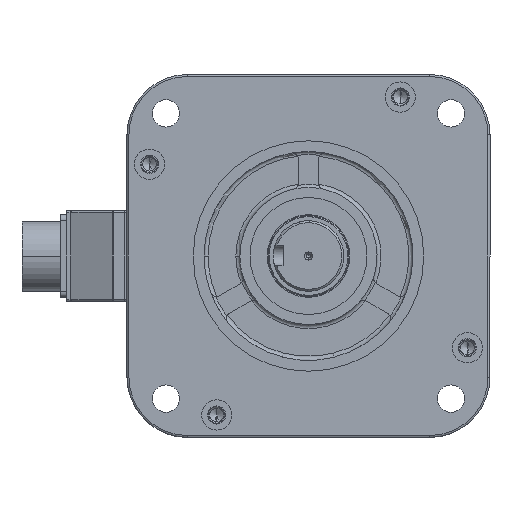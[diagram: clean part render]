
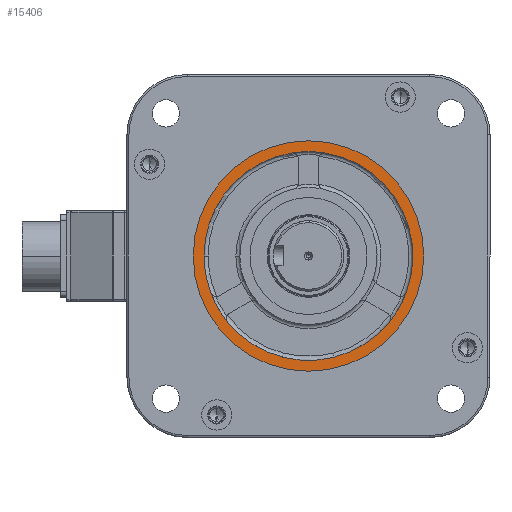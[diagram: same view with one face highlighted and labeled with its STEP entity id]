
A CAD part, left-side view. The second image highlights one B-rep face of the part: STEP entity #15406.
In plain terms, the highlighted planar face has unit normal (-1, 0, 0) as drawn and (0, 0, 1) by its records, which use the part's own axes.
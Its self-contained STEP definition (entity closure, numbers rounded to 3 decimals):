
#136 = CIRCLE ( 'NONE', #27488, 51.75 ) ;
#137 = DIRECTION ( 'NONE',  ( 0., 0., 1. ) ) ;
#355 = CARTESIAN_POINT ( 'NONE',  ( 0., 0., 21. ) ) ;
#2771 = VERTEX_POINT ( 'NONE', #42454 ) ;
#2806 = EDGE_CURVE ( 'NONE', #6686, #5763, #35256, .T. ) ;
#2818 = CARTESIAN_POINT ( 'NONE',  ( 0., 0., 21. ) ) ;
#3034 = CARTESIAN_POINT ( 'NONE',  ( 0., 0., 21. ) ) ;
#3166 = ORIENTED_EDGE ( 'NONE', *, *, #10701, .F. ) ;
#3400 = ORIENTED_EDGE ( 'NONE', *, *, #39019, .F. ) ;
#3638 = CARTESIAN_POINT ( 'NONE',  ( 0., 0., 21. ) ) ;
#3722 = DIRECTION ( 'NONE',  ( 0., 0., 1. ) ) ;
#5050 = DIRECTION ( 'NONE',  ( 1., 0., 0. ) ) ;
#5763 = VERTEX_POINT ( 'NONE', #38786 ) ;
#5901 = VERTEX_POINT ( 'NONE', #59194 ) ;
#6155 = FACE_OUTER_BOUND ( 'NONE', #52010, .T. ) ;
#6686 = VERTEX_POINT ( 'NONE', #58683 ) ;
#9834 = CIRCLE ( 'NONE', #43986, 51.75 ) ;
#10457 = ORIENTED_EDGE ( 'NONE', *, *, #2806, .F. ) ;
#10701 = EDGE_CURVE ( 'NONE', #18728, #2771, #42545, .T. ) ;
#11913 = DIRECTION ( 'NONE',  ( 1., 0., 0. ) ) ;
#12607 = DIRECTION ( 'NONE',  ( 1., 0., 0. ) ) ;
#12855 = AXIS2_PLACEMENT_3D ( 'NONE', #3638, #14359, #22622 ) ;
#14359 = DIRECTION ( 'NONE',  ( 0., 0., 1. ) ) ;
#14843 = VERTEX_POINT ( 'NONE', #28582 ) ;
#15406 = ADVANCED_FACE ( 'NONE', ( #29990, #6155 ), #53205, .T. ) ;
#16970 = EDGE_CURVE ( 'NONE', #47083, #52366, #57731, .T. ) ;
#17823 = CARTESIAN_POINT ( 'NONE',  ( -8.492, -51.048, 21. ) ) ;
#18394 = DIRECTION ( 'NONE',  ( 0., 0., 1. ) ) ;
#18728 = VERTEX_POINT ( 'NONE', #53962 ) ;
#19975 = DIRECTION ( 'NONE',  ( 0., 0., 1. ) ) ;
#20243 = DIRECTION ( 'NONE',  ( 0., 0., 1. ) ) ;
#21138 = CARTESIAN_POINT ( 'NONE',  ( 0., 0., 21. ) ) ;
#21549 = CIRCLE ( 'NONE', #32280, 57.15 ) ;
#21719 = DIRECTION ( 'NONE',  ( 0., 0., 1. ) ) ;
#22149 = DIRECTION ( 'NONE',  ( 1., 0., 0. ) ) ;
#22622 = DIRECTION ( 'NONE',  ( 1., 0., 0. ) ) ;
#24144 = CIRCLE ( 'NONE', #41632, 51.75 ) ;
#27048 = EDGE_CURVE ( 'NONE', #2771, #5901, #40883, .T. ) ;
#27488 = AXIS2_PLACEMENT_3D ( 'NONE', #355, #59411, #35636 ) ;
#27693 = CARTESIAN_POINT ( 'NONE',  ( 0., 0., 21. ) ) ;
#28582 = CARTESIAN_POINT ( 'NONE',  ( 8.492, -51.048, 21. ) ) ;
#29990 = FACE_BOUND ( 'NONE', #38367, .T. ) ;
#30899 = ORIENTED_EDGE ( 'NONE', *, *, #54880, .F. ) ;
#32280 = AXIS2_PLACEMENT_3D ( 'NONE', #59661, #55418, #22149 ) ;
#33724 = CARTESIAN_POINT ( 'NONE',  ( 0., 0., 21. ) ) ;
#35256 = CIRCLE ( 'NONE', #38177, 51.75 ) ;
#35398 = ORIENTED_EDGE ( 'NONE', *, *, #16970, .T. ) ;
#35636 = DIRECTION ( 'NONE',  ( 1., 0., 0. ) ) ;
#37035 = DIRECTION ( 'NONE',  ( 1., 0., 0. ) ) ;
#37262 = CARTESIAN_POINT ( 'NONE',  ( 0., 0., 21. ) ) ;
#37337 = ORIENTED_EDGE ( 'NONE', *, *, #49691, .F. ) ;
#37961 = CARTESIAN_POINT ( 'NONE',  ( -57.15, 0., 21. ) ) ;
#38005 = EDGE_CURVE ( 'NONE', #52366, #47083, #21549, .T. ) ;
#38177 = AXIS2_PLACEMENT_3D ( 'NONE', #37262, #46735, #55896 ) ;
#38367 = EDGE_LOOP ( 'NONE', ( #37337, #10457, #3400, #50100, #30899, #58629, #3166 ) ) ;
#38786 = CARTESIAN_POINT ( 'NONE',  ( 48.455, 18.17, 21. ) ) ;
#39019 = EDGE_CURVE ( 'NONE', #14843, #6686, #136, .T. ) ;
#40883 = CIRCLE ( 'NONE', #56507, 51.75 ) ;
#41632 = AXIS2_PLACEMENT_3D ( 'NONE', #60230, #18394, #37035 ) ;
#42454 = CARTESIAN_POINT ( 'NONE',  ( -39.963, 32.879, 21. ) ) ;
#42545 = CIRCLE ( 'NONE', #51377, 51.75 ) ;
#43986 = AXIS2_PLACEMENT_3D ( 'NONE', #27693, #137, #5050 ) ;
#44141 = AXIS2_PLACEMENT_3D ( 'NONE', #3034, #21719, #11913 ) ;
#44250 = ORIENTED_EDGE ( 'NONE', *, *, #38005, .T. ) ;
#45559 = EDGE_CURVE ( 'NONE', #56284, #14843, #55863, .T. ) ;
#45887 = AXIS2_PLACEMENT_3D ( 'NONE', #21138, #20243, #57479 ) ;
#46735 = DIRECTION ( 'NONE',  ( 0., 0., 1. ) ) ;
#47083 = VERTEX_POINT ( 'NONE', #47767 ) ;
#47767 = CARTESIAN_POINT ( 'NONE',  ( 57.15, 0., 21. ) ) ;
#49691 = EDGE_CURVE ( 'NONE', #5763, #18728, #24144, .T. ) ;
#50100 = ORIENTED_EDGE ( 'NONE', *, *, #45559, .F. ) ;
#51377 = AXIS2_PLACEMENT_3D ( 'NONE', #33724, #19975, #57229 ) ;
#52010 = EDGE_LOOP ( 'NONE', ( #44250, #35398 ) ) ;
#52366 = VERTEX_POINT ( 'NONE', #37961 ) ;
#53205 = PLANE ( 'NONE',  #45887 ) ;
#53962 = CARTESIAN_POINT ( 'NONE',  ( 39.963, 32.879, 21. ) ) ;
#54880 = EDGE_CURVE ( 'NONE', #5901, #56284, #9834, .T. ) ;
#55418 = DIRECTION ( 'NONE',  ( 0., 0., 1. ) ) ;
#55863 = CIRCLE ( 'NONE', #44141, 51.75 ) ;
#55896 = DIRECTION ( 'NONE',  ( 1., 0., 0. ) ) ;
#56284 = VERTEX_POINT ( 'NONE', #17823 ) ;
#56507 = AXIS2_PLACEMENT_3D ( 'NONE', #2818, #3722, #12607 ) ;
#57229 = DIRECTION ( 'NONE',  ( 1., 0., 0. ) ) ;
#57479 = DIRECTION ( 'NONE',  ( 1., 0., 0. ) ) ;
#57731 = CIRCLE ( 'NONE', #12855, 57.15 ) ;
#58629 = ORIENTED_EDGE ( 'NONE', *, *, #27048, .F. ) ;
#58683 = CARTESIAN_POINT ( 'NONE',  ( 51.75, 0., 21. ) ) ;
#59194 = CARTESIAN_POINT ( 'NONE',  ( -48.455, 18.17, 21. ) ) ;
#59411 = DIRECTION ( 'NONE',  ( 0., 0., 1. ) ) ;
#59661 = CARTESIAN_POINT ( 'NONE',  ( 0., 0., 21. ) ) ;
#60230 = CARTESIAN_POINT ( 'NONE',  ( 0., 0., 21. ) ) ;
